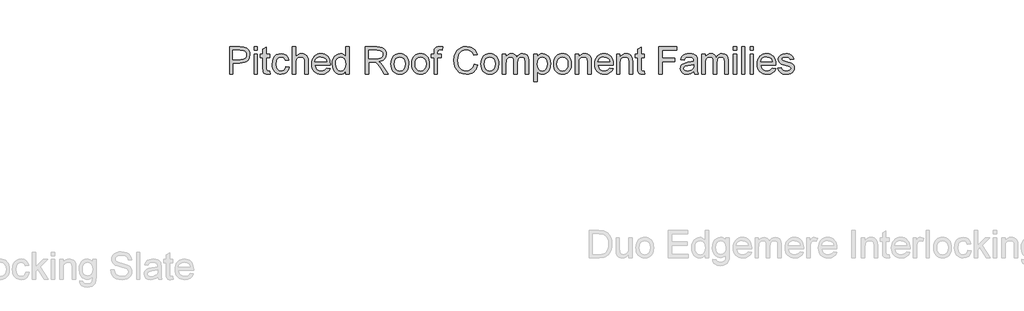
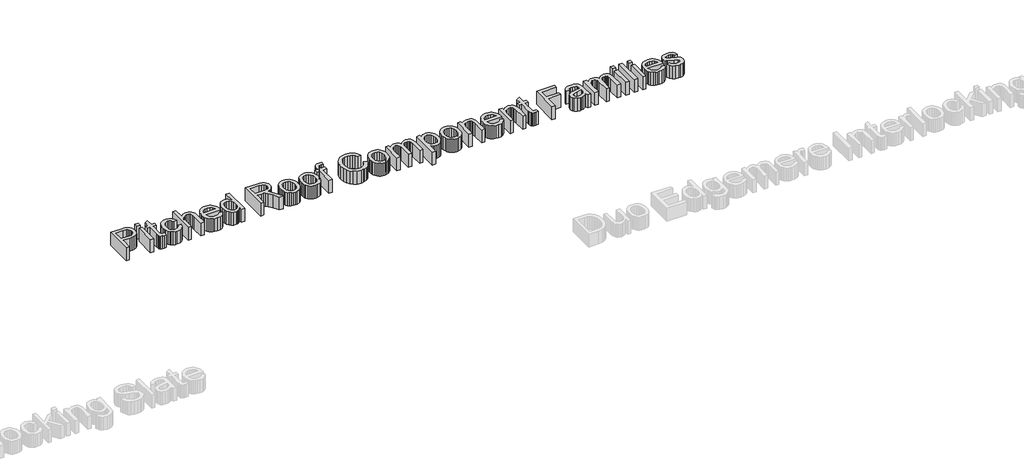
# One storey, part 5 of 8: 1 proxy.
"""IFC4 building model written with IfcOpenShell, lengths in millimetres."""

from ifc_helpers import new_model, si_unit, frame, origin, place, context, project, spatial, polyline, outline, extrude, element, save

model = new_model("IFC4")

# Units and contexts
model_context = context("Model", 3, world=origin())
ifc_project = project(units=[si_unit("LENGTHUNIT", "METRE", prefix="MILLI")], contexts=[model_context])

# Site, building, storey
site = spatial("IfcSite", under=ifc_project)
building = spatial("IfcBuilding", under=site)
storey = spatial("IfcBuildingStorey", under=building, Name="Marley Concrete Interlocking Tiles", Elevation=3000.0)

# Proxy
placement = place(None, origin())
element("IfcBuildingElementProxy", 1, Name="600mm Arial", ObjectType="600mm Arial", at=placement, inside=storey, context=model_context, shape_type="SweptSolid", body=[
    extrude(outline(polyline([(-10896.0304047, 7604.3149333), (-10896.0304047, 7899.6995487), (-10786.5592509, 7899.6995487), (-10742.4246355, 7896.8870487), (-10722.7461499, 7891.6316401), (-10706.5472316, 7883.0769526), (-10693.5033614, 7870.835366), (-10683.2900201, 7854.5192603), (-10676.6914624, 7835.273467), (-10674.4919432, 7814.242818), (-10680.432448, 7779.429116), (-10687.858079, 7764.1992483), (-10698.2539624, 7750.4207026), (-10712.5260477, 7738.9994285), (-10731.5802845, 7730.8413757), (-10755.4166727, 7725.9465439), (-10784.0352124, 7724.3149333), (-10859.1073278, 7724.3149333), (-10859.1073278, 7604.3149333), (-10896.0304047, 7604.3149333)]), holes=[polyline([(-10859.1073278, 7761.2380103), (-10781.8717509, 7761.2380103), (-10749.1313663, 7764.6274333), (-10727.4967509, 7774.7957026), (-10715.4354528, 7791.1118083), (-10711.4150201, 7812.944741), (-10713.7858134, 7829.5312795), (-10720.8981932, 7843.5216641), (-10731.8687461, 7854.0505103), (-10745.8140586, 7860.2524333), (-10782.7371355, 7862.7764718), (-10859.1073278, 7862.7764718), (-10859.1073278, 7761.2380103)])]), frame((0.0, 0.0, 3000.0), z_axis=(0.0, 0.0, 1.0), x_axis=(1.0, 0.0, 0.0)), (0.0, 0.0, 1.0), 150.0),
    extrude(outline(polyline([(-10628.338097, 7604.3149333), (-10628.338097, 7821.2380103), (-10591.4150201, 7821.2380103), (-10591.4150201, 7604.3149333), (-10628.338097, 7604.3149333)])), frame((0.0, 0.0, 3000.0), z_axis=(0.0, 0.0, 1.0), x_axis=(1.0, 0.0, 0.0)), (0.0, 0.0, 1.0), 150.0),
    extrude(outline(polyline([(-10628.338097, 7862.7764718), (-10628.338097, 7899.6995487), (-10591.4150201, 7899.6995487), (-10591.4150201, 7862.7764718), (-10628.338097, 7862.7764718)])), frame((0.0, 0.0, 3000.0), z_axis=(0.0, 0.0, 1.0), x_axis=(1.0, 0.0, 0.0)), (0.0, 0.0, 1.0), 150.0),
    extrude(outline(polyline([(-10457.5688663, 7635.1082026), (-10452.9534816, 7603.2332026), (-10480.5736739, 7599.6995487), (-10498.2960297, 7601.2320007), (-10511.5111739, 7605.8293564), (-10520.8501163, 7612.914693), (-10526.9438663, 7621.9110872), (-10530.2972316, 7637.3618083), (-10531.4150201, 7663.8101257), (-10531.4150201, 7784.3149333), (-10559.1073278, 7784.3149333), (-10559.1073278, 7821.2380103), (-10531.4150201, 7821.2380103), (-10531.4150201, 7873.9543564), (-10494.4919432, 7895.6610872), (-10494.4919432, 7821.2380103), (-10457.5688663, 7821.2380103), (-10457.5688663, 7784.3149333), (-10494.4919432, 7784.3149333), (-10494.4919432, 7664.8918564), (-10492.5448278, 7645.8533949), (-10486.2347316, 7639.1106064), (-10473.650597, 7636.6226257), (-10457.5688663, 7635.1082026)])), frame((0.0, 0.0, 3000.0), z_axis=(0.0, 0.0, 1.0), x_axis=(1.0, 0.0, 0.0)), (0.0, 0.0, 1.0), 150.0),
    extrude(outline(polyline([(-10282.1842509, 7682.7764718), (-10245.2611739, 7678.1610872), (-10255.5556451, 7645.3215439), (-10274.900597, 7620.5048372), (-10301.4751163, 7604.9008708), (-10333.4582893, 7599.6995487), (-10354.1666727, 7601.5137014), (-10372.7341307, 7606.9561593), (-10389.1606631, 7616.0269225), (-10403.4462701, 7628.725991), (-10415.0095213, 7644.8144826), (-10423.2689864, 7664.0535151), (-10428.2246655, 7686.4430884), (-10429.8765586, 7711.9832026), (-10427.0550441, 7744.8407747), (-10418.5905009, 7773.3173372), (-10404.3477124, 7796.3131305), (-10384.1914624, 7812.7283949), (-10360.0778807, 7822.5721449), (-10333.963097, 7825.8533949), (-10302.7641788, 7821.3461833), (-10277.8212701, 7807.8245487), (-10259.9276403, 7786.0096449), (-10249.8765586, 7756.6226257), (-10286.7996355, 7752.007241), (-10293.4973518, 7768.1160151), (-10303.9270393, 7779.663491), (-10317.5117749, 7786.6136112), (-10333.6746355, 7788.930318), (-10357.5358134, 7784.3690199), (-10376.4751163, 7770.6851257), (-10388.8338903, 7747.1394526), (-10392.9534816, 7712.992818), (-10388.9240345, 7678.3864478), (-10376.8356932, 7654.7596449), (-10358.2389384, 7641.1568805), (-10334.6842509, 7636.6226257), (-10315.5646595, 7639.4531545), (-10299.8885778, 7647.944741), (-10288.4853326, 7662.3137314), (-10282.1842509, 7682.7764718)])), frame((0.0, 0.0, 3000.0), z_axis=(0.0, 0.0, 1.0), x_axis=(1.0, 0.0, 0.0)), (0.0, 0.0, 1.0), 150.0),
    extrude(outline(polyline([(-10212.9534816, 7604.3149333), (-10212.9534816, 7899.6995487), (-10176.0304047, 7899.6995487), (-10176.0304047, 7791.0937795), (-10162.4682052, 7806.3011112), (-10147.2383374, 7817.163491), (-10130.3408013, 7823.6809189), (-10111.775597, 7825.8533949), (-10089.4739143, 7823.4826016), (-10070.3092509, 7816.3702218), (-10055.2191066, 7805.0751497), (-10045.1409816, 7790.1562795), (-10039.4618951, 7769.6574814), (-10037.5688663, 7741.6226257), (-10037.5688663, 7604.3149333), (-10074.4919432, 7604.3149333), (-10074.4919432, 7737.8005103), (-10077.4306451, 7760.913491), (-10086.2467509, 7776.742818), (-10100.4534816, 7785.883443), (-10119.5640586, 7788.930318), (-10135.1680249, 7786.8750295), (-10149.8164624, 7780.7091641), (-10161.9498759, 7771.0276737), (-10170.0087701, 7758.4255103), (-10174.5249961, 7741.6767122), (-10176.0304047, 7719.555318), (-10176.0304047, 7604.3149333), (-10212.9534816, 7604.3149333)])), frame((0.0, 0.0, 3000.0), z_axis=(0.0, 0.0, 1.0), x_axis=(1.0, 0.0, 0.0)), (0.0, 0.0, 1.0), 150.0),
    extrude(outline(polyline([(-9834.9246355, 7668.930318), (-9798.7227124, 7664.3149333), (-9811.7665826, 7637.0372891), (-9832.5808855, 7616.6466641), (-9860.6968711, 7603.9363276), (-9895.6457893, 7599.6995487), (-9918.5559456, 7601.527223), (-9938.9691066, 7607.0102458), (-9956.8852725, 7616.1486172), (-9972.3044432, 7628.9423372), (-9984.7037821, 7645.035336), (-9993.5604528, 7664.0715439), (-9998.8744552, 7686.050961), (-10000.6457893, 7710.9735872), (-9998.8564263, 7736.7413156), (-9993.4883374, 7759.4531545), (-9984.5415225, 7779.109104), (-9972.0159816, 7795.7091641), (-9956.6373759, 7808.8972651), (-9939.1313663, 7818.3173372), (-9919.4979528, 7823.9693805), (-9897.7371355, 7825.8533949), (-9876.6771896, 7823.9738877), (-9857.6319672, 7818.335366), (-9840.6014684, 7808.93783), (-9825.5856932, 7795.7812795), (-9813.3283314, 7779.2172771), (-9804.573073, 7759.5973853), (-9799.3199179, 7736.921604), (-9797.5688663, 7711.1899333), (-9797.7852124, 7701.2380103), (-9963.7227124, 7701.2380103), (-9957.3314864, 7673.5997891), (-9942.4847316, 7653.2812795), (-9921.057448, 7640.7872891), (-9894.9246355, 7636.6226257), (-9875.2731932, 7638.5517122), (-9858.7227124, 7644.3389718), (-9845.2731932, 7654.3449814), (-9834.9246355, 7668.930318)]), holes=[polyline([(-9963.7227124, 7738.1610872), (-9834.4919432, 7738.1610872), (-9839.4859336, 7757.6682987), (-9849.275597, 7771.6226257), (-9870.8020393, 7784.6033949), (-9897.8813663, 7788.930318), (-9922.7701884, 7785.4777939), (-9943.3501163, 7775.1202218), (-9957.6560057, 7758.9753901), (-9963.7227124, 7738.1610872)])]), frame((0.0, 0.0, 3000.0), z_axis=(0.0, 0.0, 1.0), x_axis=(1.0, 0.0, 0.0)), (0.0, 0.0, 1.0), 150.0),
    extrude(outline(polyline([(-9626.7996355, 7604.3149333), (-9626.7996355, 7639.1466641), (-9637.846811, 7621.8885511), (-9651.228722, 7609.5613276), (-9666.9453687, 7602.1649934), (-9684.9967509, 7599.6995487), (-9708.8669432, 7603.2692603), (-9730.7179047, 7613.9783949), (-9749.2155009, 7631.0787555), (-9763.025597, 7653.8221449), (-9771.6253566, 7681.289092), (-9774.4919432, 7712.5601257), (-9771.8507172, 7743.4435391), (-9763.9270393, 7771.3341641), (-9750.7299239, 7794.6454622), (-9732.2683855, 7811.7908949), (-9709.9396595, 7822.3377699), (-9685.1409816, 7825.8533949), (-9667.0760778, 7823.3383708), (-9651.1025201, 7815.7932987), (-9637.5628566, 7804.2277939), (-9626.7996355, 7789.6514718), (-9626.7996355, 7899.6995487), (-9589.8765586, 7899.6995487), (-9589.8765586, 7604.3149333), (-9626.7996355, 7604.3149333)]), holes=[polyline([(-9737.5688663, 7712.7043564), (-9733.4042028, 7679.3059189), (-9720.9102124, 7655.5529141), (-9702.7551643, 7641.3551978), (-9681.6073278, 7636.6226257), (-9660.4685057, 7641.1388516), (-9642.7731932, 7654.6875295), (-9630.7930249, 7677.5210632), (-9626.7996355, 7709.8918564), (-9630.8651403, 7745.2824814), (-9643.0616547, 7769.819741), (-9661.2076884, 7784.1526737), (-9683.1217509, 7788.930318), (-9704.4859336, 7784.3419766), (-9721.9919432, 7770.5769526), (-9733.6746355, 7746.9321208), (-9737.5688663, 7712.7043564)])]), frame((0.0, 0.0, 3000.0), z_axis=(0.0, 0.0, 1.0), x_axis=(1.0, 0.0, 0.0)), (0.0, 0.0, 1.0), 150.0),
    extrude(outline(polyline([(-9414.4919432, 7604.3149333), (-9414.4919432, 7899.6995487), (-9287.2082893, 7899.6995487), (-9252.9985538, 7897.7073612), (-9228.1097316, 7891.7307987), (-9209.9186259, 7880.6971449), (-9195.8020393, 7863.5336833), (-9186.7425441, 7842.2506305), (-9183.7227124, 7818.8582026), (-9188.7257172, 7789.7596449), (-9203.7347316, 7765.6370487), (-9215.1041727, 7755.8068204), (-9229.2004768, 7747.9507507), (-9265.5736739, 7738.1610872), (-9244.588097, 7722.367818), (-9214.6602124, 7684.3630103), (-9165.4054047, 7604.3149333), (-9208.3140586, 7604.3149333), (-9246.7515586, 7665.5408949), (-9274.5159816, 7706.069741), (-9294.0231932, 7725.2163757), (-9311.5832893, 7732.2476257), (-9333.0015586, 7733.5457026), (-9377.5688663, 7733.5457026), (-9377.5688663, 7604.3149333), (-9414.4919432, 7604.3149333)]), holes=[polyline([(-9377.5688663, 7770.4687795), (-9294.9246355, 7770.4687795), (-9271.1896595, 7771.7758708), (-9252.7731932, 7775.6971449), (-9238.9090105, 7782.4940199), (-9228.8308855, 7792.4279141), (-9222.6920634, 7804.4441401), (-9220.6457893, 7817.4880103), (-9224.5490345, 7835.4988276), (-9236.2587701, 7850.0120487), (-9256.4060057, 7859.585366), (-9285.6217509, 7862.7764718), (-9377.5688663, 7862.7764718), (-9377.5688663, 7770.4687795)])]), frame((0.0, 0.0, 3000.0), z_axis=(0.0, 0.0, 1.0), x_axis=(1.0, 0.0, 0.0)), (0.0, 0.0, 1.0), 150.0),
    extrude(outline(polyline([(-9132.9534816, 7712.7764718), (-9130.9567869, 7740.8699213), (-9124.9667028, 7765.0781545), (-9114.9832292, 7785.4011713), (-9101.0063663, 7801.8389718), (-9086.9348518, 7812.3452819), (-9071.4030009, 7819.8497891), (-9054.4108134, 7824.3524934), (-9035.9582893, 7825.8533949), (-9015.5879468, 7824.0257206), (-8997.1692268, 7818.5426978), (-8980.7021295, 7809.4043264), (-8966.1866547, 7796.6106064), (-8954.3394492, 7780.5942302), (-8945.8771595, 7761.7878901), (-8940.7997857, 7740.191586), (-8939.1073278, 7715.805318), (-8942.1001163, 7678.5036353), (-8951.0784816, 7650.1082026), (-8965.7810057, 7628.8431785), (-8985.9462701, 7612.9327218), (-9009.8975922, 7603.007842), (-9035.9582893, 7599.6995487), (-9056.6261078, 7601.5204622), (-9075.2161018, 7606.9832026), (-9091.7282713, 7616.0877699), (-9106.1626163, 7628.8341641), (-9117.8836199, 7645.0060391), (-9126.2557653, 7664.3870487), (-9131.2790526, 7686.977193), (-9132.9534816, 7712.7764718)]), holes=[polyline([(-9096.0304047, 7712.8485872), (-9091.7575682, 7679.4321208), (-9078.9390586, 7655.6250295), (-9059.6481932, 7641.3732266), (-9035.9582893, 7636.6226257), (-9012.3765586, 7641.4002699), (-8993.1217509, 7655.7332026), (-8980.3032413, 7679.8557987), (-8976.0304047, 7714.0024333), (-8980.3302845, 7746.445342), (-8993.2299239, 7769.9279141), (-9012.5117749, 7784.179717), (-9035.9582893, 7788.930318), (-9059.6481932, 7784.1977458), (-9078.9390586, 7770.0000295), (-9091.7575682, 7746.2470247), (-9096.0304047, 7712.8485872)])]), frame((0.0, 0.0, 3000.0), z_axis=(0.0, 0.0, 1.0), x_axis=(1.0, 0.0, 0.0)), (0.0, 0.0, 1.0), 150.0),
    extrude(outline(polyline([(-8906.7996355, 7712.7764718), (-8904.8029408, 7740.8699213), (-8898.8128566, 7765.0781545), (-8888.8293831, 7785.4011713), (-8874.8525201, 7801.8389718), (-8860.7810057, 7812.3452819), (-8845.2491547, 7819.8497891), (-8828.2569672, 7824.3524934), (-8809.8044432, 7825.8533949), (-8789.4341006, 7824.0257206), (-8771.0153807, 7818.5426978), (-8754.5482833, 7809.4043264), (-8740.0328086, 7796.6106064), (-8728.185603, 7780.5942302), (-8719.7233134, 7761.7878901), (-8714.6459396, 7740.191586), (-8712.9534816, 7715.805318), (-8715.9462701, 7678.5036353), (-8724.9246355, 7650.1082026), (-8739.6271595, 7628.8431785), (-8759.7924239, 7612.9327218), (-8783.7437461, 7603.007842), (-8809.8044432, 7599.6995487), (-8830.4722617, 7601.5204622), (-8849.0622557, 7606.9832026), (-8865.5744251, 7616.0877699), (-8880.0087701, 7628.8341641), (-8891.7297737, 7645.0060391), (-8900.1019191, 7664.3870487), (-8905.1252064, 7686.977193), (-8906.7996355, 7712.7764718)]), holes=[polyline([(-8869.8765586, 7712.8485872), (-8865.603722, 7679.4321208), (-8852.7852124, 7655.6250295), (-8833.494347, 7641.3732266), (-8809.8044432, 7636.6226257), (-8786.2227124, 7641.4002699), (-8766.9679047, 7655.7332026), (-8754.1493951, 7679.8557987), (-8749.8765586, 7714.0024333), (-8754.1764384, 7746.445342), (-8767.0760778, 7769.9279141), (-8786.3579288, 7784.179717), (-8809.8044432, 7788.930318), (-8833.494347, 7784.1977458), (-8852.7852124, 7770.0000295), (-8865.603722, 7746.2470247), (-8869.8765586, 7712.8485872)])]), frame((0.0, 0.0, 3000.0), z_axis=(0.0, 0.0, 1.0), x_axis=(1.0, 0.0, 0.0)), (0.0, 0.0, 1.0), 150.0),
    extrude(outline(polyline([(-8662.1842509, 7604.3149333), (-8662.1842509, 7784.3149333), (-8694.4919432, 7784.3149333), (-8694.4919432, 7821.2380103), (-8662.1842509, 7821.2380103), (-8662.1842509, 7843.0889718), (-8658.2900201, 7873.882241), (-8650.8621355, 7886.1598853), (-8639.3957893, 7895.8774333), (-8623.3501163, 7902.2055583), (-8602.1842509, 7904.3149333), (-8568.5063663, 7900.2764718), (-8573.9150201, 7865.6610872), (-8595.1890586, 7867.3918564), (-8609.2245153, 7865.8594045), (-8618.4462701, 7861.2620487), (-8623.557448, 7852.4820007), (-8625.2611739, 7838.4014718), (-8625.2611739, 7821.2380103), (-8583.7227124, 7821.2380103), (-8583.7227124, 7784.3149333), (-8625.2611739, 7784.3149333), (-8625.2611739, 7604.3149333), (-8662.1842509, 7604.3149333)])), frame((0.0, 0.0, 3000.0), z_axis=(0.0, 0.0, 1.0), x_axis=(1.0, 0.0, 0.0)), (0.0, 0.0, 1.0), 150.0),
    extrude(outline(polyline([(-8223.7227124, 7709.3149333), (-8186.7996355, 7699.7957026), (-8194.1058254, 7676.8337134), (-8203.8368951, 7656.7698612), (-8215.9928446, 7639.6041461), (-8230.5736739, 7625.336568), (-8247.2503566, 7614.120372), (-8265.6938663, 7606.1088035), (-8285.9042028, 7601.3018624), (-8307.8813663, 7599.6995487), (-8350.7088903, 7604.5493083), (-8384.7203086, 7619.0985872), (-8410.7900201, 7642.8425776), (-8429.7924239, 7675.2764718), (-8441.3939864, 7713.4074814), (-8445.2611739, 7754.242818), (-8440.8891788, 7797.3137314), (-8427.7731932, 7834.507241), (-8406.5983134, 7864.6424574), (-8378.0496355, 7886.538491), (-8344.1914624, 7899.8708228), (-8307.088097, 7904.3149333), (-8266.604323, 7898.5637314), (-8248.9923939, 7891.374729), (-8233.1337701, 7881.3101257), (-8219.2898699, 7868.6358468), (-8207.7221114, 7853.617818), (-8191.4150201, 7816.5505103), (-8228.338097, 7807.7524333), (-8241.1385778, 7834.6785151), (-8258.6265586, 7853.149068), (-8281.0183855, 7863.8311593), (-8308.5304047, 7867.3918564), (-8340.2431451, 7863.4435391), (-8366.2948278, 7851.5985872), (-8386.0634576, 7833.100991), (-8398.9270393, 7809.194741), (-8405.9853326, 7782.1695007), (-8408.338097, 7754.3149333), (-8405.5526403, 7720.2043564), (-8397.1962701, 7690.7091641), (-8382.9534816, 7666.9561593), (-8362.5087701, 7650.0721449), (-8337.9985538, 7639.9850055), (-8311.5592509, 7636.6226257), (-8280.7389384, 7641.2019526), (-8255.056847, 7654.9399333), (-8235.666823, 7677.6923372), (-8223.7227124, 7709.3149333)])), frame((0.0, 0.0, 3000.0), z_axis=(0.0, 0.0, 1.0), x_axis=(1.0, 0.0, 0.0)), (0.0, 0.0, 1.0), 150.0),
    extrude(outline(polyline([(-8149.8765586, 7712.7764718), (-8147.8798638, 7740.8699213), (-8141.8897797, 7765.0781545), (-8131.9063062, 7785.4011713), (-8117.9294432, 7801.8389718), (-8103.8579288, 7812.3452819), (-8088.3260778, 7819.8497891), (-8071.3338903, 7824.3524934), (-8052.8813663, 7825.8533949), (-8032.5110237, 7824.0257206), (-8014.0923038, 7818.5426978), (-7997.6252064, 7809.4043264), (-7983.1097316, 7796.6106064), (-7971.2625261, 7780.5942302), (-7962.8002364, 7761.7878901), (-7957.7228626, 7740.191586), (-7956.0304047, 7715.805318), (-7959.0231932, 7678.5036353), (-7968.0015586, 7650.1082026), (-7982.7040826, 7628.8431785), (-8002.869347, 7612.9327218), (-8026.8206691, 7603.007842), (-8052.8813663, 7599.6995487), (-8073.5491848, 7601.5204622), (-8092.1391788, 7606.9832026), (-8108.6513482, 7616.0877699), (-8123.0856932, 7628.8341641), (-8134.8066968, 7645.0060391), (-8143.1788422, 7664.3870487), (-8148.2021295, 7686.977193), (-8149.8765586, 7712.7764718)]), holes=[polyline([(-8112.9534816, 7712.8485872), (-8108.6806451, 7679.4321208), (-8095.8621355, 7655.6250295), (-8076.5712701, 7641.3732266), (-8052.8813663, 7636.6226257), (-8029.2996355, 7641.4002699), (-8010.0448278, 7655.7332026), (-7997.2263182, 7679.8557987), (-7992.9534816, 7714.0024333), (-7997.2533614, 7746.445342), (-8010.1530009, 7769.9279141), (-8029.4348518, 7784.179717), (-8052.8813663, 7788.930318), (-8076.5712701, 7784.1977458), (-8095.8621355, 7770.0000295), (-8108.6806451, 7746.2470247), (-8112.9534816, 7712.8485872)])]), frame((0.0, 0.0, 3000.0), z_axis=(0.0, 0.0, 1.0), x_axis=(1.0, 0.0, 0.0)), (0.0, 0.0, 1.0), 150.0),
    extrude(outline(polyline([(-7914.4919432, 7604.3149333), (-7914.4919432, 7821.2380103), (-7877.5688663, 7821.2380103), (-7877.5688663, 7785.5408949), (-7866.463097, 7801.9381305), (-7852.1842509, 7814.7836833), (-7835.2191066, 7823.085967), (-7816.0544432, 7825.8533949), (-7795.5195874, 7823.0318805), (-7779.0592509, 7814.5673372), (-7766.7635778, 7801.0186593), (-7758.7227124, 7782.944741), (-7745.2641788, 7801.7172771), (-7729.9126163, 7815.1262314), (-7712.6680249, 7823.171604), (-7693.5304047, 7825.8533949), (-7665.7749961, 7821.3912555), (-7645.2491547, 7808.0048372), (-7632.5658614, 7785.3335632), (-7628.338097, 7753.0168564), (-7628.338097, 7604.3149333), (-7665.2611739, 7604.3149333), (-7665.2611739, 7737.1514718), (-7668.6866547, 7767.9807987), (-7673.5003566, 7776.4813997), (-7681.0905009, 7783.1610872), (-7690.8531211, 7787.4880103), (-7702.1842509, 7788.930318), (-7722.1872557, 7785.2344045), (-7738.494347, 7774.1466641), (-7749.338698, 7754.9098853), (-7752.9534816, 7726.7668564), (-7752.9534816, 7604.3149333), (-7789.8765586, 7604.3149333), (-7789.8765586, 7741.2620487), (-7792.0129768, 7762.1394526), (-7798.4222316, 7777.0312795), (-7809.6992749, 7785.9555583), (-7826.4390586, 7788.930318), (-7840.6638182, 7786.9471449), (-7853.7707893, 7780.9976257), (-7864.588097, 7771.225991), (-7871.9438663, 7757.7764718), (-7876.1626163, 7739.116616), (-7877.5688663, 7713.7139718), (-7877.5688663, 7604.3149333), (-7914.4919432, 7604.3149333)])), frame((0.0, 0.0, 3000.0), z_axis=(0.0, 0.0, 1.0), x_axis=(1.0, 0.0, 0.0)), (0.0, 0.0, 1.0), 150.0),
    extrude(outline(polyline([(-7572.9534816, 7521.2380103), (-7572.9534816, 7821.2380103), (-7536.0304047, 7821.2380103), (-7536.0304047, 7785.0360872), (-7523.9871355, 7802.8936593), (-7510.5015586, 7815.649068), (-7494.7804047, 7823.3023132), (-7476.0304047, 7825.8533949), (-7451.0604528, 7822.2836833), (-7429.2275201, 7811.5745487), (-7411.4510778, 7794.3750295), (-7398.650597, 7771.3341641), (-7390.916222, 7744.1286353), (-7388.338097, 7714.4351257), (-7391.2497557, 7682.8576016), (-7399.9847316, 7654.6154141), (-7414.2635778, 7631.1418564), (-7433.806847, 7613.8702218), (-7456.5682653, 7603.242217), (-7480.5015586, 7599.6995487), (-7497.4757172, 7602.070342), (-7512.6289624, 7609.1827218), (-7525.6007172, 7619.9188997), (-7536.0304047, 7633.1610872), (-7536.0304047, 7521.2380103), (-7572.9534816, 7521.2380103)]), holes=[polyline([(-7536.0304047, 7711.0457026), (-7532.0370153, 7677.944741), (-7520.056847, 7654.7957026), (-7502.3795634, 7641.1658949), (-7481.2948278, 7636.6226257), (-7459.8675441, 7641.3281545), (-7441.7395393, 7655.444741), (-7429.3807653, 7679.4411353), (-7425.2611739, 7713.7860872), (-7429.2816066, 7746.7067603), (-7441.3429047, 7770.180318), (-7458.9931451, 7784.242818), (-7479.7804047, 7788.930318), (-7500.6487941, 7783.945342), (-7518.9751163, 7768.9904141), (-7531.7665826, 7744.5342843), (-7536.0304047, 7711.0457026)])]), frame((0.0, 0.0, 3000.0), z_axis=(0.0, 0.0, 1.0), x_axis=(1.0, 0.0, 0.0)), (0.0, 0.0, 1.0), 150.0),
    extrude(outline(polyline([(-7356.0304047, 7712.7764718), (-7354.03371, 7740.8699213), (-7348.0436259, 7765.0781545), (-7338.0601523, 7785.4011713), (-7324.0832893, 7801.8389718), (-7310.0117749, 7812.3452819), (-7294.4799239, 7819.8497891), (-7277.4877364, 7824.3524934), (-7259.0352124, 7825.8533949), (-7238.6648699, 7824.0257206), (-7220.2461499, 7818.5426978), (-7203.7790526, 7809.4043264), (-7189.2635778, 7796.6106064), (-7177.4163723, 7780.5942302), (-7168.9540826, 7761.7878901), (-7163.8767088, 7740.191586), (-7162.1842509, 7715.805318), (-7165.1770393, 7678.5036353), (-7174.1554047, 7650.1082026), (-7188.8579288, 7628.8431785), (-7209.0231932, 7612.9327218), (-7232.9745153, 7603.007842), (-7259.0352124, 7599.6995487), (-7279.7030309, 7601.5204622), (-7298.2930249, 7606.9832026), (-7314.8051944, 7616.0877699), (-7329.2395393, 7628.8341641), (-7340.9605429, 7645.0060391), (-7349.3326884, 7664.3870487), (-7354.3559756, 7686.977193), (-7356.0304047, 7712.7764718)]), holes=[polyline([(-7319.1073278, 7712.8485872), (-7314.8344913, 7679.4321208), (-7302.0159816, 7655.6250295), (-7282.7251163, 7641.3732266), (-7259.0352124, 7636.6226257), (-7235.4534816, 7641.4002699), (-7216.1986739, 7655.7332026), (-7203.3801643, 7679.8557987), (-7199.1073278, 7714.0024333), (-7203.4072076, 7746.445342), (-7216.306847, 7769.9279141), (-7235.588698, 7784.179717), (-7259.0352124, 7788.930318), (-7282.7251163, 7784.1977458), (-7302.0159816, 7770.0000295), (-7314.8344913, 7746.2470247), (-7319.1073278, 7712.8485872)])]), frame((0.0, 0.0, 3000.0), z_axis=(0.0, 0.0, 1.0), x_axis=(1.0, 0.0, 0.0)), (0.0, 0.0, 1.0), 150.0),
    extrude(outline(polyline([(-7120.6457893, 7604.3149333), (-7120.6457893, 7821.2380103), (-7083.7227124, 7821.2380103), (-7083.7227124, 7790.9495487), (-7070.8951884, 7806.2199814), (-7055.4895393, 7817.1274333), (-7037.5057653, 7823.6719045), (-7016.9438663, 7825.8533949), (-6998.7437461, 7824.0955824), (-6982.0760778, 7818.8221449), (-6968.1758374, 7810.6911353), (-6958.2780009, 7800.3606064), (-6947.2082893, 7773.2091641), (-6945.2611739, 7737.5120487), (-6945.2611739, 7604.3149333), (-6982.1842509, 7604.3149333), (-6982.1842509, 7732.5360872), (-6986.4390586, 7765.2043564), (-6992.3254768, 7774.9309189), (-7001.4751163, 7782.475991), (-7013.2028807, 7787.3167362), (-7026.8236739, 7788.930318), (-7048.4492749, 7785.3065199), (-7066.8837701, 7774.4351257), (-7074.2508074, 7765.5604261), (-7079.5129768, 7753.4315199), (-7083.7227124, 7719.4110872), (-7083.7227124, 7604.3149333), (-7120.6457893, 7604.3149333)])), frame((0.0, 0.0, 3000.0), z_axis=(0.0, 0.0, 1.0), x_axis=(1.0, 0.0, 0.0)), (0.0, 0.0, 1.0), 150.0),
    extrude(outline(polyline([(-6742.6169432, 7668.930318), (-6706.4150201, 7664.3149333), (-6719.4588903, 7637.0372891), (-6740.2731932, 7616.6466641), (-6768.3891788, 7603.9363276), (-6803.338097, 7599.6995487), (-6826.2482533, 7601.527223), (-6846.6614143, 7607.0102458), (-6864.5775802, 7616.1486172), (-6879.9967509, 7628.9423372), (-6892.3960898, 7645.035336), (-6901.2527605, 7664.0715439), (-6906.5667629, 7686.050961), (-6908.338097, 7710.9735872), (-6906.548734, 7736.7413156), (-6901.1806451, 7759.4531545), (-6892.2338302, 7779.109104), (-6879.7082893, 7795.7091641), (-6864.3296836, 7808.8972651), (-6846.8236739, 7818.3173372), (-6827.1902605, 7823.9693805), (-6805.4294432, 7825.8533949), (-6784.3694973, 7823.9738877), (-6765.3242749, 7818.335366), (-6748.2937761, 7808.93783), (-6733.2780009, 7795.7812795), (-6721.0206391, 7779.2172771), (-6712.2653807, 7759.5973853), (-6707.0122256, 7736.921604), (-6705.2611739, 7711.1899333), (-6705.4775201, 7701.2380103), (-6871.4150201, 7701.2380103), (-6865.0237941, 7673.5997891), (-6850.1770393, 7653.2812795), (-6828.7497557, 7640.7872891), (-6802.6169432, 7636.6226257), (-6782.9655009, 7638.5517122), (-6766.4150201, 7644.3389718), (-6752.9655009, 7654.3449814), (-6742.6169432, 7668.930318)]), holes=[polyline([(-6871.4150201, 7738.1610872), (-6742.1842509, 7738.1610872), (-6747.1782413, 7757.6682987), (-6756.9679047, 7771.6226257), (-6778.494347, 7784.6033949), (-6805.5736739, 7788.930318), (-6830.4624961, 7785.4777939), (-6851.0424239, 7775.1202218), (-6865.3483134, 7758.9753901), (-6871.4150201, 7738.1610872)])]), frame((0.0, 0.0, 3000.0), z_axis=(0.0, 0.0, 1.0), x_axis=(1.0, 0.0, 0.0)), (0.0, 0.0, 1.0), 150.0),
    extrude(outline(polyline([(-6668.338097, 7604.3149333), (-6668.338097, 7821.2380103), (-6631.4150201, 7821.2380103), (-6631.4150201, 7790.9495487), (-6618.5874961, 7806.2199814), (-6603.181847, 7817.1274333), (-6585.198073, 7823.6719045), (-6564.6361739, 7825.8533949), (-6546.4360538, 7824.0955824), (-6529.7683855, 7818.8221449), (-6515.8681451, 7810.6911353), (-6505.9703086, 7800.3606064), (-6494.900597, 7773.2091641), (-6492.9534816, 7737.5120487), (-6492.9534816, 7604.3149333), (-6529.8765586, 7604.3149333), (-6529.8765586, 7732.5360872), (-6534.1313663, 7765.2043564), (-6540.0177845, 7774.9309189), (-6549.1674239, 7782.475991), (-6560.8951884, 7787.3167362), (-6574.5159816, 7788.930318), (-6596.1415826, 7785.3065199), (-6614.5760778, 7774.4351257), (-6621.9431151, 7765.5604261), (-6627.2052845, 7753.4315199), (-6631.4150201, 7719.4110872), (-6631.4150201, 7604.3149333), (-6668.338097, 7604.3149333)])), frame((0.0, 0.0, 3000.0), z_axis=(0.0, 0.0, 1.0), x_axis=(1.0, 0.0, 0.0)), (0.0, 0.0, 1.0), 150.0),
    extrude(outline(polyline([(-6363.7227124, 7635.1082026), (-6359.1073278, 7603.2332026), (-6386.7275201, 7599.6995487), (-6404.4498759, 7601.2320007), (-6417.6650201, 7605.8293564), (-6427.0039624, 7612.914693), (-6433.0977124, 7621.9110872), (-6436.4510778, 7637.3618083), (-6437.5688663, 7663.8101257), (-6437.5688663, 7784.3149333), (-6465.2611739, 7784.3149333), (-6465.2611739, 7821.2380103), (-6437.5688663, 7821.2380103), (-6437.5688663, 7873.9543564), (-6400.6457893, 7895.6610872), (-6400.6457893, 7821.2380103), (-6363.7227124, 7821.2380103), (-6363.7227124, 7784.3149333), (-6400.6457893, 7784.3149333), (-6400.6457893, 7664.8918564), (-6398.6986739, 7645.8533949), (-6392.3885778, 7639.1106064), (-6379.8044432, 7636.6226257), (-6363.7227124, 7635.1082026)])), frame((0.0, 0.0, 3000.0), z_axis=(0.0, 0.0, 1.0), x_axis=(1.0, 0.0, 0.0)), (0.0, 0.0, 1.0), 150.0),
    extrude(outline(polyline([(-6206.7996355, 7604.3149333), (-6206.7996355, 7899.6995487), (-6008.338097, 7899.6995487), (-6008.338097, 7862.7764718), (-6169.8765586, 7862.7764718), (-6169.8765586, 7775.0841641), (-6031.4150201, 7775.0841641), (-6031.4150201, 7738.1610872), (-6169.8765586, 7738.1610872), (-6169.8765586, 7604.3149333), (-6206.7996355, 7604.3149333)])), frame((0.0, 0.0, 3000.0), z_axis=(0.0, 0.0, 1.0), x_axis=(1.0, 0.0, 0.0)), (0.0, 0.0, 1.0), 150.0),
    extrude(outline(polyline([(-5823.7227124, 7632.007241), (-5841.3639384, 7616.8810391), (-5859.5280009, 7606.9832026), (-5878.6295634, 7601.5204622), (-5899.0832893, 7599.6995487), (-5929.9396595, 7604.0805583), (-5952.7010778, 7617.2235872), (-5966.7365345, 7637.1815199), (-5971.4150201, 7662.007241), (-5969.6481932, 7677.3137314), (-5964.3477124, 7691.2139718), (-5956.1716307, 7703.1130103), (-5945.7780009, 7712.4158949), (-5919.9246355, 7724.5312795), (-5887.9775201, 7730.0841641), (-5850.2251163, 7735.9255103), (-5823.9390586, 7742.7764718), (-5823.7227124, 7750.9976257), (-5826.2647797, 7767.475991), (-5833.8909816, 7778.257241), (-5850.9462701, 7786.2620487), (-5874.7082893, 7788.930318), (-5896.7034816, 7787.1544766), (-5912.0640586, 7781.8269526), (-5922.5388182, 7771.9741882), (-5929.8765586, 7756.6226257), (-5966.7996355, 7761.2380103), (-5960.3903807, 7781.430318), (-5950.8260778, 7797.2957026), (-5937.2142989, 7809.429116), (-5918.6626163, 7818.4255103), (-5895.9733134, 7823.9964237), (-5869.9486739, 7825.8533949), (-5844.9877364, 7824.2127699), (-5825.2010778, 7819.2908949), (-5810.2822076, 7811.8900535), (-5799.9246355, 7802.8125295), (-5793.0556451, 7791.5895728), (-5788.6025201, 7777.7524333), (-5786.7996355, 7745.444741), (-5786.7996355, 7699.507241), (-5784.9246355, 7635.3606064), (-5777.5688663, 7604.3149333), (-5814.4919432, 7604.3149333), (-5823.7227124, 7632.007241)]), holes=[polyline([(-5823.7227124, 7705.8533949), (-5883.2900201, 7694.5312795), (-5915.056847, 7688.5457026), (-5929.4438663, 7678.8101257), (-5934.4919432, 7664.6033949), (-5931.7425441, 7653.6238276), (-5923.494347, 7644.6274333), (-5909.9276403, 7638.6238276), (-5891.2227124, 7636.6226257), (-5871.3909816, 7638.8311593), (-5853.8669432, 7645.4567603), (-5839.6602124, 7655.2193805), (-5829.7804047, 7666.8389718), (-5825.3993951, 7678.8101257), (-5823.9390586, 7695.3966641), (-5823.7227124, 7705.8533949)])]), frame((0.0, 0.0, 3000.0), z_axis=(0.0, 0.0, 1.0), x_axis=(1.0, 0.0, 0.0)), (0.0, 0.0, 1.0), 150.0),
    extrude(outline(polyline([(-5736.0304047, 7604.3149333), (-5736.0304047, 7821.2380103), (-5699.1073278, 7821.2380103), (-5699.1073278, 7785.5408949), (-5688.0015586, 7801.9381305), (-5673.7227124, 7814.7836833), (-5656.7575682, 7823.085967), (-5637.5929047, 7825.8533949), (-5617.0580489, 7823.0318805), (-5600.5977124, 7814.5673372), (-5588.3020393, 7801.0186593), (-5580.2611739, 7782.944741), (-5566.8026403, 7801.7172771), (-5551.4510778, 7815.1262314), (-5534.2064864, 7823.171604), (-5515.0688663, 7825.8533949), (-5487.3134576, 7821.3912555), (-5466.7876163, 7808.0048372), (-5454.104323, 7785.3335632), (-5449.8765586, 7753.0168564), (-5449.8765586, 7604.3149333), (-5486.7996355, 7604.3149333), (-5486.7996355, 7737.1514718), (-5490.2251163, 7767.9807987), (-5495.0388182, 7776.4813997), (-5502.6289624, 7783.1610872), (-5512.3915826, 7787.4880103), (-5523.7227124, 7788.930318), (-5543.7257172, 7785.2344045), (-5560.0328086, 7774.1466641), (-5570.8771595, 7754.9098853), (-5574.4919432, 7726.7668564), (-5574.4919432, 7604.3149333), (-5611.4150201, 7604.3149333), (-5611.4150201, 7741.2620487), (-5613.5514384, 7762.1394526), (-5619.9606932, 7777.0312795), (-5631.2377364, 7785.9555583), (-5647.9775201, 7788.930318), (-5662.2022797, 7786.9471449), (-5675.3092509, 7780.9976257), (-5686.1265586, 7771.225991), (-5693.4823278, 7757.7764718), (-5697.7010778, 7739.116616), (-5699.1073278, 7713.7139718), (-5699.1073278, 7604.3149333), (-5736.0304047, 7604.3149333)])), frame((0.0, 0.0, 3000.0), z_axis=(0.0, 0.0, 1.0), x_axis=(1.0, 0.0, 0.0)), (0.0, 0.0, 1.0), 150.0),
    extrude(outline(polyline([(-5394.4919432, 7604.3149333), (-5394.4919432, 7821.2380103), (-5357.5688663, 7821.2380103), (-5357.5688663, 7604.3149333), (-5394.4919432, 7604.3149333)])), frame((0.0, 0.0, 3000.0), z_axis=(0.0, 0.0, 1.0), x_axis=(1.0, 0.0, 0.0)), (0.0, 0.0, 1.0), 150.0),
    extrude(outline(polyline([(-5394.4919432, 7862.7764718), (-5394.4919432, 7899.6995487), (-5357.5688663, 7899.6995487), (-5357.5688663, 7862.7764718), (-5394.4919432, 7862.7764718)])), frame((0.0, 0.0, 3000.0), z_axis=(0.0, 0.0, 1.0), x_axis=(1.0, 0.0, 0.0)), (0.0, 0.0, 1.0), 150.0),
    extrude(outline(polyline([(-5302.1842509, 7604.3149333), (-5302.1842509, 7899.6995487), (-5265.2611739, 7899.6995487), (-5265.2611739, 7604.3149333), (-5302.1842509, 7604.3149333)])), frame((0.0, 0.0, 3000.0), z_axis=(0.0, 0.0, 1.0), x_axis=(1.0, 0.0, 0.0)), (0.0, 0.0, 1.0), 150.0),
    extrude(outline(polyline([(-5209.8765586, 7604.3149333), (-5209.8765586, 7821.2380103), (-5172.9534816, 7821.2380103), (-5172.9534816, 7604.3149333), (-5209.8765586, 7604.3149333)])), frame((0.0, 0.0, 3000.0), z_axis=(0.0, 0.0, 1.0), x_axis=(1.0, 0.0, 0.0)), (0.0, 0.0, 1.0), 150.0),
    extrude(outline(polyline([(-5209.8765586, 7862.7764718), (-5209.8765586, 7899.6995487), (-5172.9534816, 7899.6995487), (-5172.9534816, 7862.7764718), (-5209.8765586, 7862.7764718)])), frame((0.0, 0.0, 3000.0), z_axis=(0.0, 0.0, 1.0), x_axis=(1.0, 0.0, 0.0)), (0.0, 0.0, 1.0), 150.0),
    extrude(outline(polyline([(-4965.6938663, 7668.930318), (-4929.4919432, 7664.3149333), (-4942.5358134, 7637.0372891), (-4963.3501163, 7616.6466641), (-4991.4661018, 7603.9363276), (-5026.4150201, 7599.6995487), (-5049.3251763, 7601.527223), (-5069.7383374, 7607.0102458), (-5087.6545033, 7616.1486172), (-5103.0736739, 7628.9423372), (-5115.4730129, 7645.035336), (-5124.3296836, 7664.0715439), (-5129.643686, 7686.050961), (-5131.4150201, 7710.9735872), (-5129.6256571, 7736.7413156), (-5124.2575682, 7759.4531545), (-5115.3107533, 7779.109104), (-5102.7852124, 7795.7091641), (-5087.4066066, 7808.8972651), (-5069.900597, 7818.3173372), (-5050.2671836, 7823.9693805), (-5028.5063663, 7825.8533949), (-5007.4464203, 7823.9738877), (-4988.401198, 7818.335366), (-4971.3706992, 7808.93783), (-4956.3549239, 7795.7812795), (-4944.0975622, 7779.2172771), (-4935.3423038, 7759.5973853), (-4930.0891487, 7736.921604), (-4928.338097, 7711.1899333), (-4928.5544432, 7701.2380103), (-5094.4919432, 7701.2380103), (-5088.1007172, 7673.5997891), (-5073.2539624, 7653.2812795), (-5051.8266788, 7640.7872891), (-5025.6938663, 7636.6226257), (-5006.0424239, 7638.5517122), (-4989.4919432, 7644.3389718), (-4976.0424239, 7654.3449814), (-4965.6938663, 7668.930318)]), holes=[polyline([(-5094.4919432, 7738.1610872), (-4965.2611739, 7738.1610872), (-4970.2551643, 7757.6682987), (-4980.0448278, 7771.6226257), (-5001.5712701, 7784.6033949), (-5028.650597, 7788.930318), (-5053.5394191, 7785.4777939), (-5074.119347, 7775.1202218), (-5088.4252364, 7758.9753901), (-5094.4919432, 7738.1610872)])]), frame((0.0, 0.0, 3000.0), z_axis=(0.0, 0.0, 1.0), x_axis=(1.0, 0.0, 0.0)), (0.0, 0.0, 1.0), 150.0),
    extrude(outline(polyline([(-4905.2611739, 7668.930318), (-4868.338097, 7673.5457026), (-4862.5147797, 7657.7524333), (-4851.2467509, 7646.1418564), (-4834.4618951, 7639.0024333), (-4812.088097, 7636.6226257), (-4789.9847316, 7638.804116), (-4774.4438663, 7645.3485872), (-4765.2491547, 7654.8317603), (-4762.1842509, 7665.8293564), (-4765.2671836, 7675.2404141), (-4774.5159816, 7682.4158949), (-4812.5207893, 7692.944741), (-4868.1217509, 7711.0096449), (-4882.1932653, 7720.0871689), (-4892.3885778, 7732.1033949), (-4898.5814864, 7746.2920968), (-4900.6457893, 7761.8870487), (-4898.9871355, 7776.1929382), (-4894.0111739, 7789.399068), (-4886.1686259, 7800.9826016), (-4875.9102124, 7810.4207026), (-4852.4366547, 7821.3461833), (-4820.6698278, 7825.8533949), (-4796.6373759, 7824.0414958), (-4775.7419432, 7818.6057987), (-4758.9390586, 7810.0781545), (-4747.1842509, 7798.9904141), (-4739.3957893, 7784.5222651), (-4734.4919432, 7765.8533949), (-4771.4150201, 7761.2380103), (-4776.0754768, 7772.8576016), (-4785.2972316, 7781.6106064), (-4799.1704288, 7787.1003901), (-4817.7852124, 7788.930318), (-4838.9871355, 7787.1815199), (-4853.1217509, 7781.9351257), (-4861.072472, 7774.3630103), (-4863.7227124, 7765.6370487), (-4859.3236739, 7754.8918564), (-4845.5496355, 7746.742818), (-4813.7467509, 7738.882241), (-4759.5520393, 7721.5024333), (-4745.2371355, 7713.1911353), (-4734.3837701, 7701.8149333), (-4727.541823, 7687.3377699), (-4725.2611739, 7669.7235872), (-4727.9384576, 7651.5144526), (-4735.9703086, 7634.3870487), (-4749.0502364, 7619.6845247), (-4766.8717509, 7608.7500295), (-4788.3981932, 7601.9621689), (-4812.5929047, 7599.6995487), (-4849.822472, 7604.0625295), (-4876.9919432, 7617.1514718), (-4895.1289624, 7638.8221449), (-4905.2611739, 7668.930318)])), frame((0.0, 0.0, 3000.0), z_axis=(0.0, 0.0, 1.0), x_axis=(1.0, 0.0, 0.0)), (0.0, 0.0, 1.0), 150.0),
])

save(model, "model.ifc")
